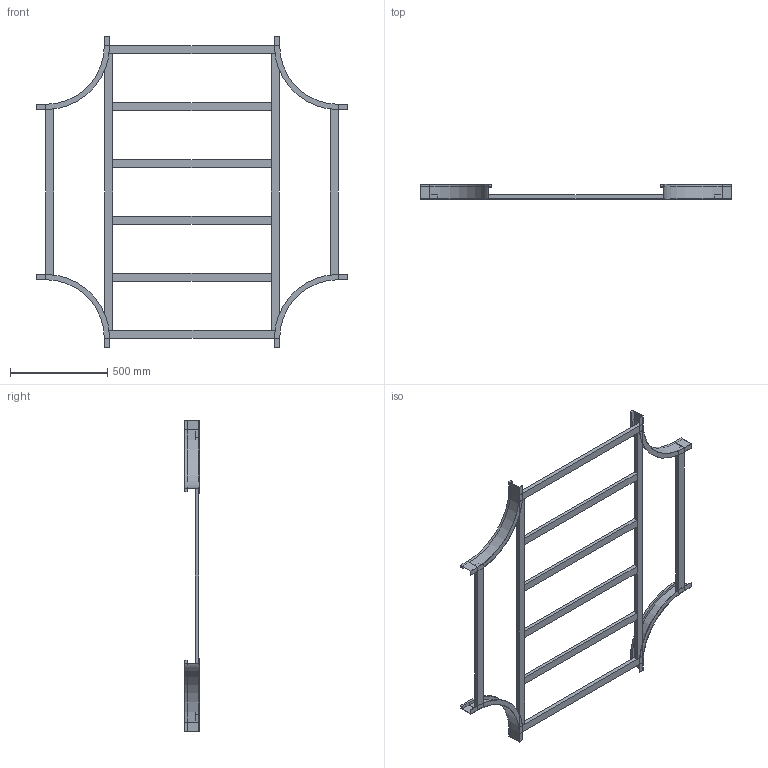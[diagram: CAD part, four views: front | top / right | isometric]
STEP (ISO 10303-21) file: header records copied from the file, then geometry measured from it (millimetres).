
FILE_DESCRIPTION (( 'STEP AP214' ), '1' );
FILE_NAME ('B2_17B3C900.step', '2025-02-21T15:59:28', ( '' ), ( '' ), 'SwSTEP 2.0', 'SolidWorks 2023', '' );
FILE_SCHEMA (( 'AUTOMOTIVE_DESIGN' ));
Length unit declared in the file: millimetre
Products named in the file (5): TRAVERSINO_INTERMEDIO_R300+900; B2_LONGH.INTERNO 90°_H75_R300; B2_TRAVERSINO_LONG._R300+900; B2_17B3C900; TRAVERSINO_900
Assembly tree (14 placements, depth 2):
  B2_17B3C900
    B2_LONGH.INTERNO 90°_H75_R300  x4
    TRAVERSINO_900  x4
    B2_TRAVERSINO_LONG._R300+900  x2
    TRAVERSINO_INTERMEDIO_R300+900  x4
Bounding box: 1600 x 75 x 1600 mm (x, y, z)
Volume: 8755684.1 mm3; surface area: 1739161.6 mm2
Topology: 14 solids, 14 shells, 164 faces, 344 edges, 208 vertices
Faces by surface type: plane 148, cylinder 16
Entity records: 1370 total; most frequent: DIRECTION 222, CARTESIAN_POINT 209, ORIENTED_EDGE 184, EDGE_CURVE 92, VECTOR 84, LINE 84, AXIS2_PLACEMENT_3D 69, VERTEX_POINT 56
